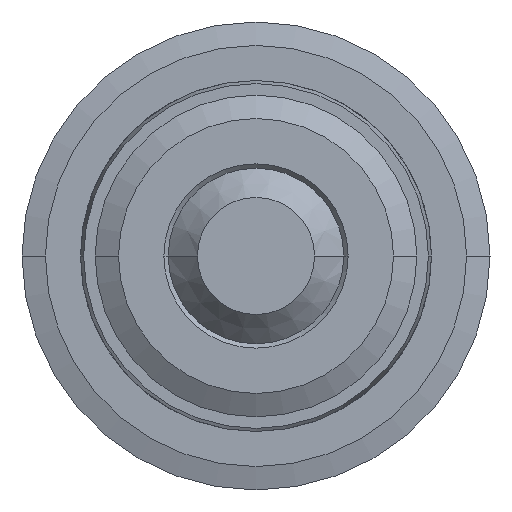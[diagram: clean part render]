
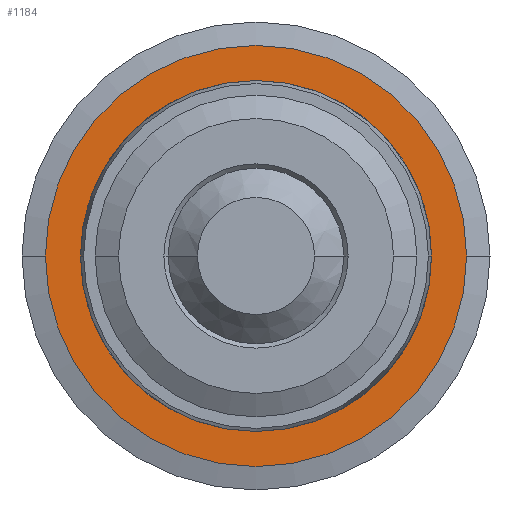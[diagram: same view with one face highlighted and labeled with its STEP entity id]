
A CAD part, left-side view. The second image highlights one B-rep face of the part: STEP entity #1184.
In plain terms, the highlighted planar face has unit normal (-1, 0, 0).
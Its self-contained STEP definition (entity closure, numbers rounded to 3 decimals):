
#72=CARTESIAN_POINT('',(-10.3,0.,0.));
#73=DIRECTION('',(-1.,0.,0.));
#74=DIRECTION('',(0.,1.,0.));
#75=AXIS2_PLACEMENT_3D('',#72,#73,#74);
#81=CARTESIAN_POINT('',(-10.3,0.,0.));
#82=DIRECTION('',(-1.,0.,0.));
#83=DIRECTION('',(0.,-1.,0.));
#84=AXIS2_PLACEMENT_3D('',#81,#82,#83);
#455=CARTESIAN_POINT('',(-10.3,0.,0.));
#456=DIRECTION('',(1.,0.,0.));
#457=DIRECTION('',(0.,1.,0.));
#458=AXIS2_PLACEMENT_3D('',#455,#456,#457);
#477=CARTESIAN_POINT('',(-10.3,0.,0.));
#478=DIRECTION('',(-1.,0.,0.));
#479=DIRECTION('',(0.,1.,0.));
#480=AXIS2_PLACEMENT_3D('',#477,#478,#479);
#1015=CARTESIAN_POINT('',(-10.3,3.,0.));
#1017=VERTEX_POINT('',#1015);
#1019=CARTESIAN_POINT('',(-10.3,-3.,0.));
#1021=VERTEX_POINT('',#1019);
#1067=CARTESIAN_POINT('',(-10.3,3.6,0.));
#1068=CARTESIAN_POINT('',(-10.3,-3.6,0.));
#1069=VERTEX_POINT('',#1067);
#1070=VERTEX_POINT('',#1068);
#1167=CARTESIAN_POINT('',(-10.3,0.,0.));
#1168=DIRECTION('',(1.,0.,0.));
#1169=DIRECTION('',(0.,-1.,0.));
#1170=AXIS2_PLACEMENT_3D('',#1167,#1168,#1169);
#1171=PLANE('',#1170);
#1173=ORIENTED_EDGE('',*,*,#1172,.F.);
#1175=ORIENTED_EDGE('',*,*,#1174,.F.);
#1176=EDGE_LOOP('',(#1173,#1175));
#1177=FACE_OUTER_BOUND('',#1176,.F.);
#1179=ORIENTED_EDGE('',*,*,#1178,.F.);
#1181=ORIENTED_EDGE('',*,*,#1180,.T.);
#1182=EDGE_LOOP('',(#1179,#1181));
#1183=FACE_BOUND('',#1182,.F.);
#1184=ADVANCED_FACE('',(#1177,#1183),#1171,.F.);
#76=CIRCLE('',#75,3.6);
#85=CIRCLE('',#84,3.6);
#459=CIRCLE('',#458,3.);
#481=CIRCLE('',#480,3.);
#1172=EDGE_CURVE('',#1069,#1070,#76,.T.);
#1174=EDGE_CURVE('',#1070,#1069,#85,.T.);
#1178=EDGE_CURVE('',#1017,#1021,#459,.T.);
#1180=EDGE_CURVE('',#1017,#1021,#481,.T.);
